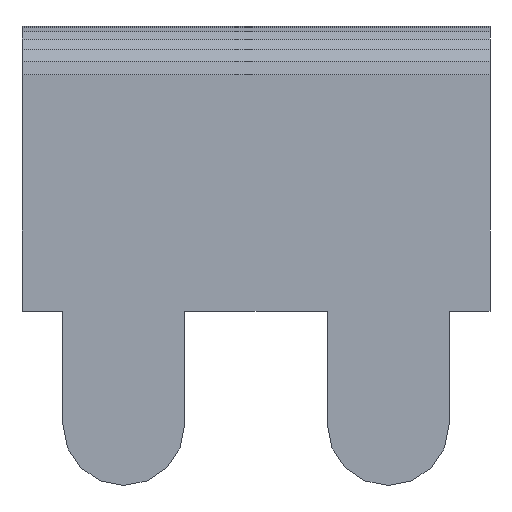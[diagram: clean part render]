
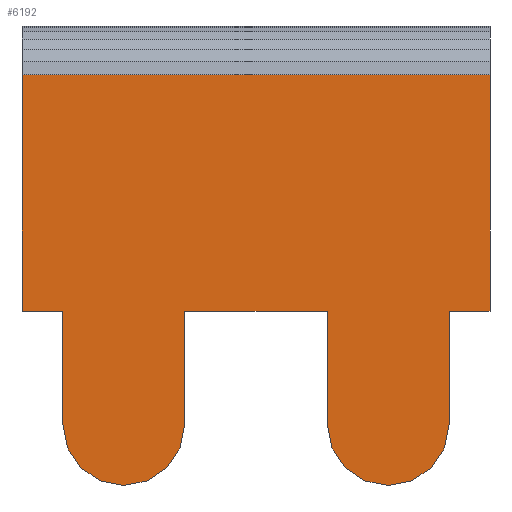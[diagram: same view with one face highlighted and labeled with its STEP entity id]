
A CAD part, front view. The second image highlights one B-rep face of the part: STEP entity #6192.
In plain terms, the highlighted planar face has unit normal (0, -1, 0).
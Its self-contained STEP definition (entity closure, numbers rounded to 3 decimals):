
#961 = VERTEX_POINT('',#962);
#962 = CARTESIAN_POINT('',(-5.753,-5.753,-0.));
#968 = EDGE_CURVE('',#961,#969,#971,.T.);
#969 = VERTEX_POINT('',#970);
#970 = CARTESIAN_POINT('',(-5.753,-5.753,5.814));
#971 = LINE('',#972,#973);
#972 = CARTESIAN_POINT('',(-5.753,-5.753,-0.));
#973 = VECTOR('',#974,1.);
#974 = DIRECTION('',(0.,0.,1.));
#5672 = VERTEX_POINT('',#5673);
#5673 = CARTESIAN_POINT('',(5.753,-5.753,5.814));
#5679 = EDGE_CURVE('',#5672,#5680,#5682,.T.);
#5680 = VERTEX_POINT('',#5681);
#5681 = CARTESIAN_POINT('',(5.753,-5.753,-0.));
#5682 = LINE('',#5683,#5684);
#5683 = CARTESIAN_POINT('',(5.753,-5.753,5.814));
#5684 = VECTOR('',#5685,1.);
#5685 = DIRECTION('',(0.,0.,-1.));
#6129 = EDGE_CURVE('',#969,#5672,#6130,.T.);
#6130 = LINE('',#6131,#6132);
#6131 = CARTESIAN_POINT('',(-5.753,-5.753,5.814));
#6132 = VECTOR('',#6133,1.);
#6133 = DIRECTION('',(1.,0.,0.));
#6192 = ADVANCED_FACE('',(#6193),#6380,.T.);
#6193 = FACE_BOUND('',#6194,.T.);
#6194 = EDGE_LOOP('',(#6195,#6196,#6204,#6212,#6220,#6228,#6236,#6244,
    #6252,#6260,#6268,#6276,#6284,#6292,#6300,#6308,#6316,#6324,#6332,
    #6340,#6348,#6356,#6364,#6372,#6378,#6379));
#6195 = ORIENTED_EDGE('',*,*,#968,.F.);
#6196 = ORIENTED_EDGE('',*,*,#6197,.T.);
#6197 = EDGE_CURVE('',#961,#6198,#6200,.T.);
#6198 = VERTEX_POINT('',#6199);
#6199 = CARTESIAN_POINT('',(-4.75,-5.753,-0.));
#6200 = LINE('',#6201,#6202);
#6201 = CARTESIAN_POINT('',(-5.753,-5.753,-0.));
#6202 = VECTOR('',#6203,1.);
#6203 = DIRECTION('',(1.,0.,0.));
#6204 = ORIENTED_EDGE('',*,*,#6205,.T.);
#6205 = EDGE_CURVE('',#6198,#6206,#6208,.T.);
#6206 = VERTEX_POINT('',#6207);
#6207 = CARTESIAN_POINT('',(-4.75,-5.753,-2.789));
#6208 = LINE('',#6209,#6210);
#6209 = CARTESIAN_POINT('',(-4.75,-5.753,-0.));
#6210 = VECTOR('',#6211,1.);
#6211 = DIRECTION('',(0.,0.,-1.));
#6212 = ORIENTED_EDGE('',*,*,#6213,.T.);
#6213 = EDGE_CURVE('',#6206,#6214,#6216,.T.);
#6214 = VERTEX_POINT('',#6215);
#6215 = CARTESIAN_POINT('',(-4.636,-5.753,-3.362));
#6216 = LINE('',#6217,#6218);
#6217 = CARTESIAN_POINT('',(-4.75,-5.753,-2.789));
#6218 = VECTOR('',#6219,1.);
#6219 = DIRECTION('',(0.195,0.,-0.981));
#6220 = ORIENTED_EDGE('',*,*,#6221,.T.);
#6221 = EDGE_CURVE('',#6214,#6222,#6224,.T.);
#6222 = VERTEX_POINT('',#6223);
#6223 = CARTESIAN_POINT('',(-4.311,-5.753,-3.849));
#6224 = LINE('',#6225,#6226);
#6225 = CARTESIAN_POINT('',(-4.636,-5.753,-3.362));
#6226 = VECTOR('',#6227,1.);
#6227 = DIRECTION('',(0.555,0.,-0.832));
#6228 = ORIENTED_EDGE('',*,*,#6229,.T.);
#6229 = EDGE_CURVE('',#6222,#6230,#6232,.T.);
#6230 = VERTEX_POINT('',#6231);
#6231 = CARTESIAN_POINT('',(-3.825,-5.753,-4.173));
#6232 = LINE('',#6233,#6234);
#6233 = CARTESIAN_POINT('',(-4.311,-5.753,-3.849));
#6234 = VECTOR('',#6235,1.);
#6235 = DIRECTION('',(0.832,0.,-0.555));
#6236 = ORIENTED_EDGE('',*,*,#6237,.T.);
#6237 = EDGE_CURVE('',#6230,#6238,#6240,.T.);
#6238 = VERTEX_POINT('',#6239);
#6239 = CARTESIAN_POINT('',(-3.251,-5.753,-4.288));
#6240 = LINE('',#6241,#6242);
#6241 = CARTESIAN_POINT('',(-3.825,-5.753,-4.173));
#6242 = VECTOR('',#6243,1.);
#6243 = DIRECTION('',(0.981,0.,-0.195));
#6244 = ORIENTED_EDGE('',*,*,#6245,.T.);
#6245 = EDGE_CURVE('',#6238,#6246,#6248,.T.);
#6246 = VERTEX_POINT('',#6247);
#6247 = CARTESIAN_POINT('',(-2.678,-5.753,-4.173));
#6248 = LINE('',#6249,#6250);
#6249 = CARTESIAN_POINT('',(-3.251,-5.753,-4.288));
#6250 = VECTOR('',#6251,1.);
#6251 = DIRECTION('',(0.981,0.,0.195));
#6252 = ORIENTED_EDGE('',*,*,#6253,.T.);
#6253 = EDGE_CURVE('',#6246,#6254,#6256,.T.);
#6254 = VERTEX_POINT('',#6255);
#6255 = CARTESIAN_POINT('',(-2.192,-5.753,-3.849));
#6256 = LINE('',#6257,#6258);
#6257 = CARTESIAN_POINT('',(-2.678,-5.753,-4.173));
#6258 = VECTOR('',#6259,1.);
#6259 = DIRECTION('',(0.832,0.,0.555));
#6260 = ORIENTED_EDGE('',*,*,#6261,.T.);
#6261 = EDGE_CURVE('',#6254,#6262,#6264,.T.);
#6262 = VERTEX_POINT('',#6263);
#6263 = CARTESIAN_POINT('',(-1.867,-5.753,-3.362));
#6264 = LINE('',#6265,#6266);
#6265 = CARTESIAN_POINT('',(-2.192,-5.753,-3.849));
#6266 = VECTOR('',#6267,1.);
#6267 = DIRECTION('',(0.555,0.,0.832));
#6268 = ORIENTED_EDGE('',*,*,#6269,.T.);
#6269 = EDGE_CURVE('',#6262,#6270,#6272,.T.);
#6270 = VERTEX_POINT('',#6271);
#6271 = CARTESIAN_POINT('',(-1.753,-5.753,-2.789));
#6272 = LINE('',#6273,#6274);
#6273 = CARTESIAN_POINT('',(-1.867,-5.753,-3.362));
#6274 = VECTOR('',#6275,1.);
#6275 = DIRECTION('',(0.195,0.,0.981));
#6276 = ORIENTED_EDGE('',*,*,#6277,.T.);
#6277 = EDGE_CURVE('',#6270,#6278,#6280,.T.);
#6278 = VERTEX_POINT('',#6279);
#6279 = CARTESIAN_POINT('',(-1.753,-5.753,-0.));
#6280 = LINE('',#6281,#6282);
#6281 = CARTESIAN_POINT('',(-1.753,-5.753,-2.789));
#6282 = VECTOR('',#6283,1.);
#6283 = DIRECTION('',(0.,0.,1.));
#6284 = ORIENTED_EDGE('',*,*,#6285,.T.);
#6285 = EDGE_CURVE('',#6278,#6286,#6288,.T.);
#6286 = VERTEX_POINT('',#6287);
#6287 = CARTESIAN_POINT('',(1.753,-5.753,-0.));
#6288 = LINE('',#6289,#6290);
#6289 = CARTESIAN_POINT('',(-1.753,-5.753,-0.));
#6290 = VECTOR('',#6291,1.);
#6291 = DIRECTION('',(1.,0.,0.));
#6292 = ORIENTED_EDGE('',*,*,#6293,.T.);
#6293 = EDGE_CURVE('',#6286,#6294,#6296,.T.);
#6294 = VERTEX_POINT('',#6295);
#6295 = CARTESIAN_POINT('',(1.753,-5.753,-2.789));
#6296 = LINE('',#6297,#6298);
#6297 = CARTESIAN_POINT('',(1.753,-5.753,-0.));
#6298 = VECTOR('',#6299,1.);
#6299 = DIRECTION('',(0.,0.,-1.));
#6300 = ORIENTED_EDGE('',*,*,#6301,.T.);
#6301 = EDGE_CURVE('',#6294,#6302,#6304,.T.);
#6302 = VERTEX_POINT('',#6303);
#6303 = CARTESIAN_POINT('',(1.867,-5.753,-3.362));
#6304 = LINE('',#6305,#6306);
#6305 = CARTESIAN_POINT('',(1.753,-5.753,-2.789));
#6306 = VECTOR('',#6307,1.);
#6307 = DIRECTION('',(0.195,0.,-0.981));
#6308 = ORIENTED_EDGE('',*,*,#6309,.T.);
#6309 = EDGE_CURVE('',#6302,#6310,#6312,.T.);
#6310 = VERTEX_POINT('',#6311);
#6311 = CARTESIAN_POINT('',(2.192,-5.753,-3.849));
#6312 = LINE('',#6313,#6314);
#6313 = CARTESIAN_POINT('',(1.867,-5.753,-3.362));
#6314 = VECTOR('',#6315,1.);
#6315 = DIRECTION('',(0.555,0.,-0.832));
#6316 = ORIENTED_EDGE('',*,*,#6317,.T.);
#6317 = EDGE_CURVE('',#6310,#6318,#6320,.T.);
#6318 = VERTEX_POINT('',#6319);
#6319 = CARTESIAN_POINT('',(2.678,-5.753,-4.173));
#6320 = LINE('',#6321,#6322);
#6321 = CARTESIAN_POINT('',(2.192,-5.753,-3.849));
#6322 = VECTOR('',#6323,1.);
#6323 = DIRECTION('',(0.832,0.,-0.555));
#6324 = ORIENTED_EDGE('',*,*,#6325,.T.);
#6325 = EDGE_CURVE('',#6318,#6326,#6328,.T.);
#6326 = VERTEX_POINT('',#6327);
#6327 = CARTESIAN_POINT('',(3.251,-5.753,-4.288));
#6328 = LINE('',#6329,#6330);
#6329 = CARTESIAN_POINT('',(2.678,-5.753,-4.173));
#6330 = VECTOR('',#6331,1.);
#6331 = DIRECTION('',(0.981,0.,-0.195));
#6332 = ORIENTED_EDGE('',*,*,#6333,.T.);
#6333 = EDGE_CURVE('',#6326,#6334,#6336,.T.);
#6334 = VERTEX_POINT('',#6335);
#6335 = CARTESIAN_POINT('',(3.825,-5.753,-4.173));
#6336 = LINE('',#6337,#6338);
#6337 = CARTESIAN_POINT('',(3.251,-5.753,-4.288));
#6338 = VECTOR('',#6339,1.);
#6339 = DIRECTION('',(0.981,0.,0.195));
#6340 = ORIENTED_EDGE('',*,*,#6341,.T.);
#6341 = EDGE_CURVE('',#6334,#6342,#6344,.T.);
#6342 = VERTEX_POINT('',#6343);
#6343 = CARTESIAN_POINT('',(4.311,-5.753,-3.849));
#6344 = LINE('',#6345,#6346);
#6345 = CARTESIAN_POINT('',(3.825,-5.753,-4.173));
#6346 = VECTOR('',#6347,1.);
#6347 = DIRECTION('',(0.832,0.,0.555));
#6348 = ORIENTED_EDGE('',*,*,#6349,.T.);
#6349 = EDGE_CURVE('',#6342,#6350,#6352,.T.);
#6350 = VERTEX_POINT('',#6351);
#6351 = CARTESIAN_POINT('',(4.636,-5.753,-3.362));
#6352 = LINE('',#6353,#6354);
#6353 = CARTESIAN_POINT('',(4.311,-5.753,-3.849));
#6354 = VECTOR('',#6355,1.);
#6355 = DIRECTION('',(0.555,0.,0.832));
#6356 = ORIENTED_EDGE('',*,*,#6357,.T.);
#6357 = EDGE_CURVE('',#6350,#6358,#6360,.T.);
#6358 = VERTEX_POINT('',#6359);
#6359 = CARTESIAN_POINT('',(4.75,-5.753,-2.789));
#6360 = LINE('',#6361,#6362);
#6361 = CARTESIAN_POINT('',(4.636,-5.753,-3.362));
#6362 = VECTOR('',#6363,1.);
#6363 = DIRECTION('',(0.195,0.,0.981));
#6364 = ORIENTED_EDGE('',*,*,#6365,.T.);
#6365 = EDGE_CURVE('',#6358,#6366,#6368,.T.);
#6366 = VERTEX_POINT('',#6367);
#6367 = CARTESIAN_POINT('',(4.75,-5.753,-0.));
#6368 = LINE('',#6369,#6370);
#6369 = CARTESIAN_POINT('',(4.75,-5.753,-2.789));
#6370 = VECTOR('',#6371,1.);
#6371 = DIRECTION('',(0.,0.,1.));
#6372 = ORIENTED_EDGE('',*,*,#6373,.T.);
#6373 = EDGE_CURVE('',#6366,#5680,#6374,.T.);
#6374 = LINE('',#6375,#6376);
#6375 = CARTESIAN_POINT('',(4.75,-5.753,-0.));
#6376 = VECTOR('',#6377,1.);
#6377 = DIRECTION('',(1.,0.,0.));
#6378 = ORIENTED_EDGE('',*,*,#5679,.F.);
#6379 = ORIENTED_EDGE('',*,*,#6129,.F.);
#6380 = PLANE('',#6381);
#6381 = AXIS2_PLACEMENT_3D('',#6382,#6383,#6384);
#6382 = CARTESIAN_POINT('',(0.,-5.753,1.022)
  );
#6383 = DIRECTION('',(-0.,-1.,-0.));
#6384 = DIRECTION('',(0.,0.,-1.));
